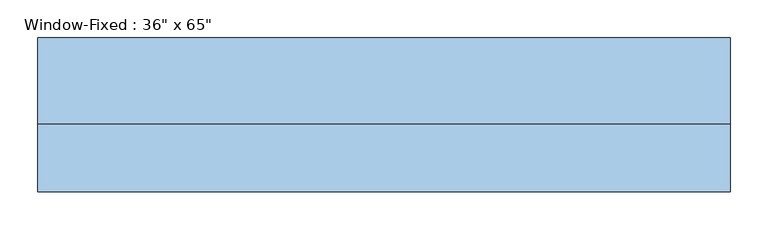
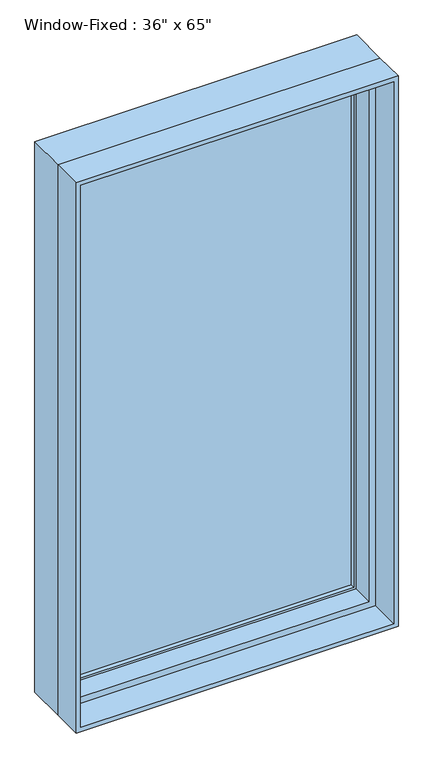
"""IFC4 building model written with IfcOpenShell, lengths in millimetres: window geometry."""

from ifc_helpers import new_model, si_unit, frame, origin, place, context, project, spatial, polyline, outline, extrude, faceted_brep, source, transform, mapped, element, save


def window_539d97a3(model_context):
    return source(origin(), model_context, "Body", "SolidModel", [
        extrude(outline(polyline([(419.1, 92.075), (419.1, 85.725), (-419.1, 85.725), (-419.1, 92.075), (419.1, 92.075)])), frame((0.0, 0.0, 952.5), z_axis=(0.0, 0.0, 1.0), x_axis=(1.0, 0.0, 0.0)), (0.0, 0.0, 1.0), 1574.8),
        extrude(outline(polyline([(-419.1, 73.025), (-419.1, 79.375), (419.1, 79.375), (419.1, 73.025), (-419.1, 73.025)])), frame((0.0, 0.0, 952.5), z_axis=(0.0, 0.0, 1.0), x_axis=(1.0, 0.0, 0.0)), (0.0, 0.0, 1.0), 1574.8),
        extrude(outline(polyline([(927.1, 444.5), (2552.7, 444.5), (2552.7, -444.5), (927.1, -444.5), (927.1, 444.5)]), holes=[polyline([(952.5, -419.1), (2527.3, -419.1), (2527.3, 419.1), (952.5, 419.1), (952.5, -419.1)])]), frame((0.0, 60.325, 0.0), z_axis=(0.0, 1.0, 0.0), x_axis=(0.0, 0.0, 1.0)), (0.0, 0.0, 1.0), 44.45),
        extrude(outline(polyline([(2565.4, -457.2), (914.4, -457.2), (914.4, 457.2), (2565.4, 457.2), (2565.4, -457.2)]), holes=[polyline([(2552.7, 444.5), (927.1, 444.5), (927.1, -444.5), (2552.7, -444.5), (2552.7, 444.5)])]), frame((0.0, -92.075, 0.0), z_axis=(0.0, 1.0, 0.0), x_axis=(0.0, 0.0, 1.0)), (0.0, 0.0, 1.0), 88.9),
        faceted_brep([(457.2, -3.175, 2565.4), (457.2, 111.125, 2565.4), (-457.2, 111.125, 2565.4), (-457.2, -3.175, 2565.4), (-457.2, 111.125, 914.4), (-457.2, -3.175, 914.4), (457.2, 111.125, 914.4), (457.2, -3.175, 914.4), (425.45, -3.175, 2533.65), (425.45, -3.175, 946.15), (-425.45, -3.175, 946.15), (-425.45, -3.175, 2533.65), (-444.5, 111.125, 2552.7), (-444.5, 111.125, 927.1), (444.5, 111.125, 927.1), (444.5, 111.125, 2552.7), (425.45, 60.325, 2533.65), (-425.45, 60.325, 2533.65), (444.5, 60.325, 2552.7), (-444.5, 60.325, 2552.7), (-425.45, 60.325, 946.15), (-444.5, 60.325, 927.1), (425.45, 60.325, 946.15), (444.5, 60.325, 927.1)], [[[0, 1, 2, 3]], [[3, 2, 4, 5]], [[5, 4, 6, 7]], [[3, 5, 7, 0], [8, 9, 10, 11]], [[7, 6, 1, 0]], [[1, 6, 4, 2], [12, 13, 14, 15]], [[16, 8, 11, 17]], [[15, 18, 19, 12]], [[17, 11, 10, 20]], [[12, 19, 21, 13]], [[20, 10, 9, 22]], [[13, 21, 23, 14]], [[22, 9, 8, 16]], [[18, 23, 21, 19], [17, 20, 22, 16]], [[14, 23, 18, 15]]]),
    ])


if __name__ == "__main__":
    model = new_model("IFC4")
    model_context = context("Model", 3, world=origin())
    ifc_project = project(units=[si_unit("LENGTHUNIT", "METRE", prefix="MILLI")], contexts=[model_context])
    site = spatial("IfcSite", under=ifc_project)
    building = spatial("IfcBuilding", under=site)
    placement = place(None, origin())
    window_shape = window_539d97a3(model_context)
    element("IfcWindow", 1, ObjectType="Window-Fixed : 36\" x 65\"", at=placement, inside=building, context=model_context, shape_type="MappedRepresentation", body=[
        mapped(window_shape, transform((0.0, 0.0, 0.0), x_axis=(1.0, 0.0, 0.0), y_axis=(0.0, 1.0, 0.0), z_axis=(0.0, 0.0, 1.0))),
    ])
    save(model, "model.ifc")
